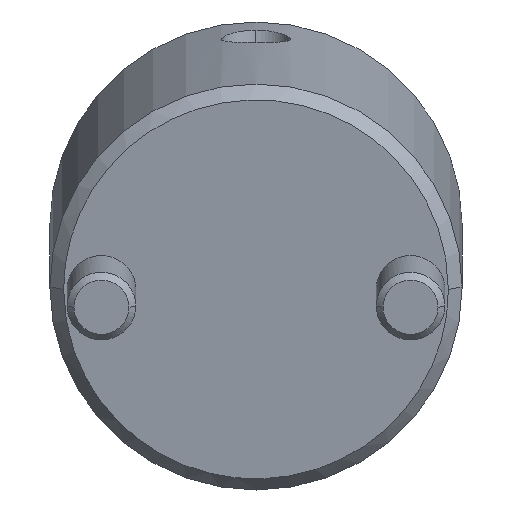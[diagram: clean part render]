
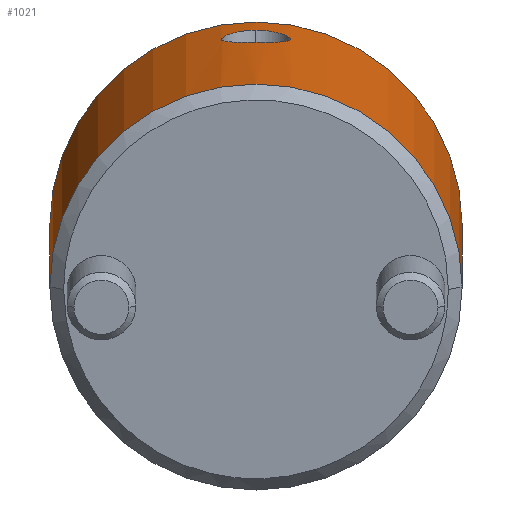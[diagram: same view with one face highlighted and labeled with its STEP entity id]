
A CAD part, front view. The second image highlights one B-rep face of the part: STEP entity #1021.
In plain terms, the highlighted cylindrical face has radius 15 mm (diameter 30 mm), a partial arc.
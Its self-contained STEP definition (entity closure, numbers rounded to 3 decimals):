
#790=CARTESIAN_POINT('Vertex',(0.,15.,1.)) ;
#793=CARTESIAN_POINT('Axis2P3D Location',(0.,0.,1.)) ;
#797=CARTESIAN_POINT('Vertex',(0.,-15.,1.)) ;
#937=CARTESIAN_POINT('Axis2P3D Location',(0.,0.,-1.4)) ;
#942=CARTESIAN_POINT('Line Origine',(0.,15.,-1.4)) ;
#946=CARTESIAN_POINT('Vertex',(0.,15.,27.)) ;
#949=CARTESIAN_POINT('Axis2P3D Location',(0.,0.,27.)) ;
#953=CARTESIAN_POINT('Vertex',(0.,-15.,27.)) ;
#956=CARTESIAN_POINT('Line Origine',(0.,-15.,-1.4)) ;
#968=CARTESIAN_POINT('Control Point',(15.,0.,23.558)) ;
#969=CARTESIAN_POINT('Control Point',(15.,0.148,23.558)) ;
#970=CARTESIAN_POINT('Control Point',(14.998,0.295,23.547)) ;
#971=CARTESIAN_POINT('Control Point',(14.995,0.443,23.524)) ;
#972=CARTESIAN_POINT('Control Point',(14.983,0.74,23.453)) ;
#973=CARTESIAN_POINT('Control Point',(14.966,1.024,23.337)) ;
#974=CARTESIAN_POINT('Control Point',(14.956,1.158,23.27)) ;
#975=CARTESIAN_POINT('Control Point',(14.912,1.684,22.951)) ;
#976=CARTESIAN_POINT('Control Point',(14.856,2.104,22.481)) ;
#977=CARTESIAN_POINT('Control Point',(14.817,2.342,22.055)) ;
#978=CARTESIAN_POINT('Control Point',(14.776,2.583,21.193)) ;
#979=CARTESIAN_POINT('Control Point',(14.797,2.461,20.324)) ;
#980=CARTESIAN_POINT('Control Point',(14.819,2.331,19.951)) ;
#981=CARTESIAN_POINT('Control Point',(14.868,2.017,19.415)) ;
#982=CARTESIAN_POINT('Control Point',(14.92,1.563,19.004)) ;
#983=CARTESIAN_POINT('Control Point',(14.939,1.373,18.868)) ;
#984=CARTESIAN_POINT('Control Point',(14.97,0.999,18.661)) ;
#985=CARTESIAN_POINT('Control Point',(14.991,0.581,18.538)) ;
#986=CARTESIAN_POINT('Control Point',(14.997,0.386,18.499)) ;
#987=CARTESIAN_POINT('Control Point',(15.,0.193,18.481)) ;
#988=CARTESIAN_POINT('Control Point',(15.,0.,18.481)) ;
#989=CARTESIAN_POINT('Vertex',(15.,0.,23.558)) ;
#991=CARTESIAN_POINT('Vertex',(15.,0.,18.481)) ;
#995=CARTESIAN_POINT('Control Point',(15.,0.,18.481)) ;
#996=CARTESIAN_POINT('Control Point',(15.,-0.15,18.481)) ;
#997=CARTESIAN_POINT('Control Point',(14.998,-0.301,18.492)) ;
#998=CARTESIAN_POINT('Control Point',(14.994,-0.452,18.514)) ;
#999=CARTESIAN_POINT('Control Point',(14.983,-0.754,18.584)) ;
#1000=CARTESIAN_POINT('Control Point',(14.965,-1.044,18.698)) ;
#1001=CARTESIAN_POINT('Control Point',(14.954,-1.18,18.765)) ;
#1002=CARTESIAN_POINT('Control Point',(14.909,-1.708,19.076)) ;
#1003=CARTESIAN_POINT('Control Point',(14.853,-2.126,19.537)) ;
#1004=CARTESIAN_POINT('Control Point',(14.815,-2.354,19.952)) ;
#1005=CARTESIAN_POINT('Control Point',(14.772,-2.607,20.88)) ;
#1006=CARTESIAN_POINT('Control Point',(14.803,-2.425,21.838)) ;
#1007=CARTESIAN_POINT('Control Point',(14.838,-2.223,22.287)) ;
#1008=CARTESIAN_POINT('Control Point',(14.892,-1.843,22.794)) ;
#1009=CARTESIAN_POINT('Control Point',(14.94,-1.346,23.156)) ;
#1010=CARTESIAN_POINT('Control Point',(14.952,-1.216,23.237)) ;
#1011=CARTESIAN_POINT('Control Point',(14.975,-0.909,23.396)) ;
#1012=CARTESIAN_POINT('Control Point',(14.991,-0.572,23.5)) ;
#1013=CARTESIAN_POINT('Control Point',(14.997,-0.381,23.54)) ;
#1014=CARTESIAN_POINT('Control Point',(15.,-0.191,23.558)) ;
#1015=CARTESIAN_POINT('Control Point',(15.,0.,23.558)) ;
#794=DIRECTION('Axis2P3D Direction',(0.,0.,1.)) ;
#938=DIRECTION('Axis2P3D Direction',(0.,-0.,1.)) ;
#939=DIRECTION('Axis2P3D XDirection',(0.,-1.,0.)) ;
#943=DIRECTION('Vector Direction',(0.,0.,1.)) ;
#950=DIRECTION('Axis2P3D Direction',(0.,-0.,1.)) ;
#957=DIRECTION('Vector Direction',(0.,0.,1.)) ;
#795=AXIS2_PLACEMENT_3D('Circle Axis2P3D',#793,#794,$) ;
#940=AXIS2_PLACEMENT_3D('Cylinder Axis2P3D',#937,#938,#939) ;
#951=AXIS2_PLACEMENT_3D('Circle Axis2P3D',#949,#950,$) ;
#962=ORIENTED_EDGE('',*,*,#948,.F.) ;
#963=ORIENTED_EDGE('',*,*,#955,.T.) ;
#964=ORIENTED_EDGE('',*,*,#960,.T.) ;
#965=ORIENTED_EDGE('',*,*,#799,.F.) ;
#1018=ORIENTED_EDGE('',*,*,#993,.T.) ;
#1019=ORIENTED_EDGE('',*,*,#1016,.T.) ;
#1020=FACE_BOUND('',#1017,.T.) ;
#944=VECTOR('Line Direction',#943,1.) ;
#958=VECTOR('Line Direction',#957,1.) ;
#1021=ADVANCED_FACE('MANIFOLD_SOLID_BREP #1106',(#966,#1020),#941,.T.) ;
#967=B_SPLINE_CURVE_WITH_KNOTS('',5,(#968,#969,#970,#971,#972,#973,#974,#975,#976,#977,#978,#979,#980,#981,#982,#983,#984,#985,#986,#987,#988),.UNSPECIFIED.,.F.,.U.,(6,3,3,3,3,3,6),(0.,1.072,2.161,5.477,8.197,9.822,11.218),.UNSPECIFIED.) ;
#994=B_SPLINE_CURVE_WITH_KNOTS('',5,(#995,#996,#997,#998,#999,#1000,#1001,#1002,#1003,#1004,#1005,#1006,#1007,#1008,#1009,#1010,#1011,#1012,#1013,#1014,#1015),.UNSPECIFIED.,.F.,.U.,(6,3,3,3,3,3,6),(0.,1.094,2.185,5.464,8.768,9.848,11.223),.UNSPECIFIED.) ;
#796=CIRCLE('generated circle',#795,15.) ;
#952=CIRCLE('generated circle',#951,15.) ;
#941=CYLINDRICAL_SURFACE('generated cylinder',#940,15.) ;
#799=EDGE_CURVE('',#791,#798,#796,.F.) ;
#948=EDGE_CURVE('',#947,#791,#945,.F.) ;
#955=EDGE_CURVE('',#947,#954,#952,.F.) ;
#960=EDGE_CURVE('',#954,#798,#959,.F.) ;
#993=EDGE_CURVE('',#990,#992,#967,.T.) ;
#1016=EDGE_CURVE('',#992,#990,#994,.T.) ;
#961=EDGE_LOOP('',(#962,#963,#964,#965)) ;
#1017=EDGE_LOOP('',(#1018,#1019)) ;
#966=FACE_OUTER_BOUND('',#961,.T.) ;
#945=LINE('Line',#942,#944) ;
#959=LINE('Line',#956,#958) ;
#791=VERTEX_POINT('',#790) ;
#798=VERTEX_POINT('',#797) ;
#947=VERTEX_POINT('',#946) ;
#954=VERTEX_POINT('',#953) ;
#990=VERTEX_POINT('',#989) ;
#992=VERTEX_POINT('',#991) ;
